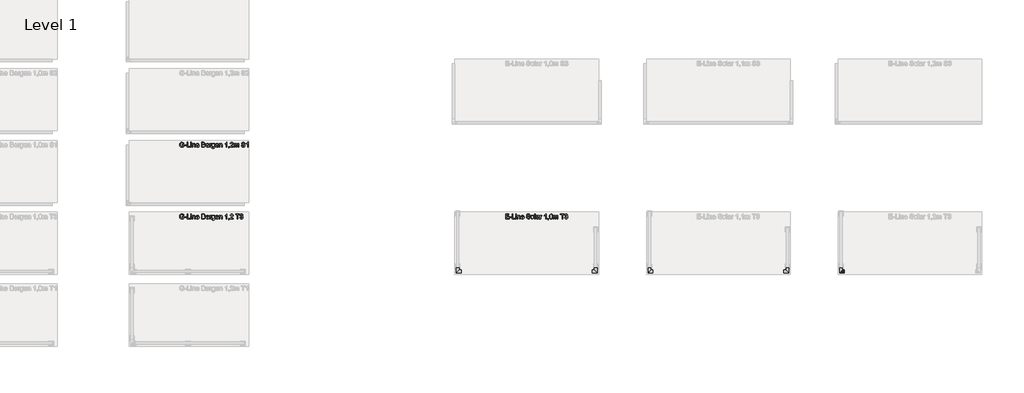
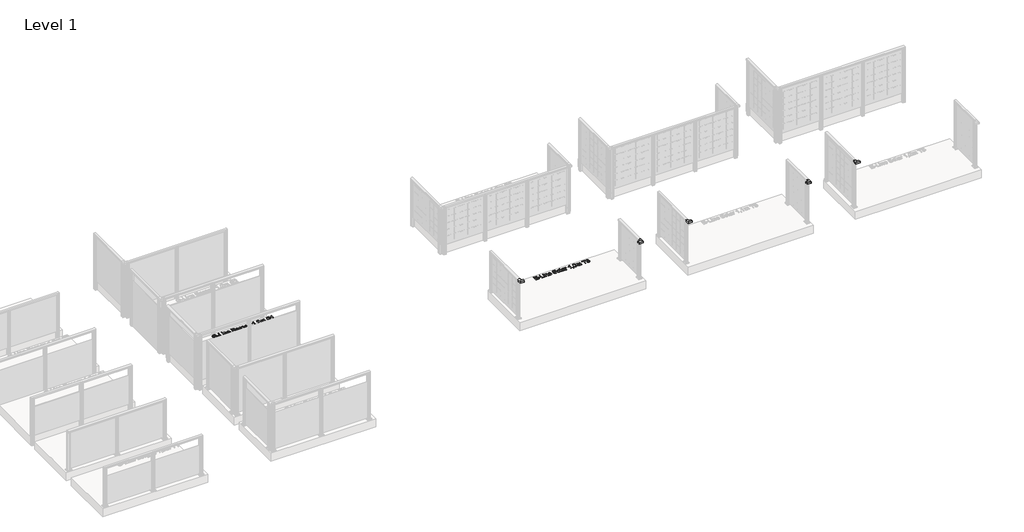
# One storey, part 54 of 66: 8 proxies.
"""IFC4 building model written with IfcOpenShell, lengths in millimetres."""

from ifc_helpers import new_model, si_unit, origin, origin_with_axes, place, context, project, spatial, polyline, outline, extrude, transform, mapped, element, save
from components import generic_models_029e0633, generic_models_b718ed85

model = new_model("IFC4")

# Units and contexts
model_context = context("Model", 3, world=origin())
ifc_project = project(units=[si_unit("LENGTHUNIT", "METRE", prefix="MILLI")], contexts=[model_context])

# Site, building, storey
site = spatial("IfcSite", under=ifc_project)
building = spatial("IfcBuilding", under=site)
storey = spatial("IfcBuildingStorey", under=building, Name="Level 1", Elevation=0.0)

# Proxies
placement = place(None, origin())
generic_models_shape = generic_models_029e0633(model_context)
element("IfcBuildingElementProxy", 1, Name="Innore top rail 51x43 corner element : Innore top rail 51x43 element", ObjectType="Innore top rail 51x43 corner element : Innore top rail 51x43 element", at=placement, inside=storey, context=model_context, shape_type="MappedRepresentation", body=[
    mapped(generic_models_shape, transform((15356.5263105, -2920.1018151, 1000.0), x_axis=(0.0, -1.0, 0.0), y_axis=(1.0, 0.0, 0.0), z_axis=(0.0, 0.0, 1.0))),
])
element("IfcBuildingElementProxy", 2, Name="Innore top rail 51x43 corner element : Innore top rail 51x43 element", ObjectType="Innore top rail 51x43 corner element : Innore top rail 51x43 element", at=placement, inside=storey, context=model_context, shape_type="MappedRepresentation", body=[
    mapped(generic_models_shape, transform((23356.5263105, -2920.1018151, 1200.0), x_axis=(0.0, -1.0, 0.0), y_axis=(1.0, 0.0, 0.0), z_axis=(0.0, 0.0, 1.0))),
])
element("IfcBuildingElementProxy", 3, Name="Innore top rail 51x43 corner element : Innore top rail 51x43 element", ObjectType="Innore top rail 51x43 corner element : Innore top rail 51x43 element", at=placement, inside=storey, context=model_context, shape_type="MappedRepresentation", body=[
    mapped(generic_models_shape, transform((19356.5263105, -2920.1018151, 1100.0), x_axis=(0.0, -1.0, 0.0), y_axis=(1.0, 0.0, 0.0), z_axis=(0.0, 0.0, 1.0))),
])
generic_models_2_shape = generic_models_b718ed85(model_context)
element("IfcBuildingElementProxy", 4, Name="Innore top rail 51x43 corner element : Innore top rail 51x43 element", ObjectType="Innore top rail 51x43 corner element : Innore top rail 51x43 element", at=placement, inside=storey, context=model_context, shape_type="MappedRepresentation", body=[
    mapped(generic_models_2_shape, transform((18236.5263105, -2920.1018151, 1000.0), x_axis=(0.0, -1.0, 0.0), y_axis=(1.0, 0.0, 0.0), z_axis=(0.0, 0.0, 1.0))),
])
element("IfcBuildingElementProxy", 5, Name="Innore top rail 51x43 corner element : Innore top rail 51x43 element", ObjectType="Innore top rail 51x43 corner element : Innore top rail 51x43 element", at=placement, inside=storey, context=model_context, shape_type="MappedRepresentation", body=[
    mapped(generic_models_2_shape, transform((22236.5263105, -2920.1018151, 1100.0), x_axis=(0.0, -1.0, 0.0), y_axis=(1.0, 0.0, 0.0), z_axis=(0.0, 0.0, 1.0))),
])
element("IfcBuildingElementProxy", 6, Name="100mm Arial", ObjectType="100mm Arial", at=placement, inside=storey, context=model_context, shape_type="SweptSolid", body=[
    extrude(outline(polyline([(9601.1253773, -1781.8776559), (9601.1253773, -1769.3206172), (9641.9357533, -1769.3206172), (9641.9357533, -1806.8691061), (9621.7880827, -1818.7149064), (9600.4877152, -1822.6880319), (9586.4009005, -1821.109205), (9573.6691178, -1816.3727243), (9563.0925104, -1808.6441368), (9555.4712217, -1798.0889892), (9550.8634997, -1785.4277172), (9549.3275924, -1771.3807563), (9550.8573684, -1757.2326279), (9555.4466963, -1744.0716496), (9562.9055037, -1733.032124), (9573.0437184, -1725.2483541), (9585.3922907, -1720.6314351), (9599.4821711, -1719.0924621), (9619.1270696, -1722.6609174), (9632.898119, -1732.5937313), (9640.4887508, -1749.2097348), (9628.9127307, -1752.4716218), (9623.1860343, -1740.8588135), (9613.4003732, -1734.1633612), (9599.2859674, -1731.6495009), (9583.2095242, -1734.3595649), (9572.2711662, -1741.4719501), (9565.8087058, -1751.1472466), (9561.8846312, -1770.8657215), (9566.6057835, -1792.7547003), (9580.3400446, -1805.8512993), (9599.4821711, -1810.1309932), (9616.6622603, -1806.9058943), (9629.3787146, -1800.026501), (9629.3787146, -1781.8776559), (9601.1253773, -1781.8776559)])), origin_with_axes(), (0.0, 0.0, 1.0), 10.0),
    extrude(outline(polyline([(9654.4927921, -1791.295435), (9654.4927921, -1778.7383962), (9693.7335383, -1778.7383962), (9693.7335383, -1791.295435), (9654.4927921, -1791.295435)])), origin_with_axes(), (0.0, 0.0, 1.0), 10.0),
    extrude(outline(polyline([(9709.4298367, -1821.1184021), (9709.4298367, -1720.6620919), (9721.9868755, -1720.6620919), (9721.9868755, -1808.5613633), (9772.2150306, -1808.5613633), (9772.2150306, -1821.1184021), (9709.4298367, -1821.1184021)])), origin_with_axes(), (0.0, 0.0, 1.0), 10.0),
    extrude(outline(polyline([(9784.7720693, -1733.2191307), (9784.7720693, -1720.6620919), (9797.3291081, -1720.6620919), (9797.3291081, -1733.2191307), (9784.7720693, -1733.2191307)])), origin_with_axes(), (0.0, 0.0, 1.0), 10.0),
    extrude(outline(polyline([(9784.7720693, -1821.1184021), (9784.7720693, -1747.3457993), (9797.3291081, -1747.3457993), (9797.3291081, -1821.1184021), (9784.7720693, -1821.1184021)])), origin_with_axes(), (0.0, 0.0, 1.0), 10.0),
    extrude(outline(polyline([(9816.1646663, -1821.1184021), (9816.1646663, -1747.3457993), (9828.721705, -1747.3457993), (9828.721705, -1757.6464952), (9838.3234251, -1748.7437509), (9851.4322869, -1745.7761695), (9863.2903498, -1748.1674024), (9871.3837537, -1754.4459218), (9875.1484128, -1763.6797599), (9875.8106004, -1775.8198657), (9875.8106004, -1821.1184021), (9863.2535616, -1821.1184021), (9863.2535616, -1777.5121229), (9861.8065591, -1766.4020867), (9856.6929994, -1760.5282375), (9848.072298, -1758.3332082), (9834.4484014, -1763.262827), (9830.1533791, -1770.405869), (9828.721705, -1781.9757578), (9828.721705, -1821.1184021), (9816.1646663, -1821.1184021)])), origin_with_axes(), (0.0, 0.0, 1.0), 10.0),
    extrude(outline(polyline([(9944.7271608, -1799.1435842), (9957.0389449, -1800.7132141), (9952.6029012, -1809.9899717), (9945.5242385, -1816.9245473), (9935.9623723, -1821.2471608), (9924.0767182, -1822.6880319), (9909.3430443, -1820.2017628), (9898.0061474, -1812.7429553), (9890.7772662, -1800.7959875), (9888.3676392, -1784.8452374), (9890.8017917, -1768.3579926), (9898.1042493, -1756.0278144), (9909.287862, -1748.3390807), (9923.3654796, -1745.7761695), (9937.0047046, -1748.3329493), (9947.9032087, -1756.0032889), (9955.0493165, -1768.3089417), (9957.4313524, -1784.771661), (9957.357776, -1788.1561753), (9900.9246779, -1788.1561753), (9903.0982474, -1797.5555603), (9908.1474278, -1804.4656104), (9915.434557, -1808.7146475), (9924.3219728, -1810.1309932), (9936.6337569, -1807.5067683), (9944.7271608, -1799.1435842)]), holes=[polyline([(9900.9246779, -1775.5991365), (9944.8743136, -1775.5991365), (9939.846593, -1764.2193202), (9932.5257413, -1759.8047362), (9923.3164287, -1758.3332082), (9907.8531222, -1763.029835), (9902.9878828, -1768.5204738), (9900.9246779, -1775.5991365)])]), origin_with_axes(), (0.0, 0.0, 1.0), 10.0),
    extrude(outline(polyline([(10010.7987672, -1821.1184021), (10010.7987672, -1720.6620919), (10049.1320711, -1720.6620919), (10067.9063156, -1723.6174106), (10078.9918263, -1732.7040959), (10083.0017401, -1745.5554403), (10079.6294885, -1757.2908759), (10069.4391572, -1766.1813575), (10081.812255, -1775.5500856), (10086.1409998, -1791.1728077), (10083.1856811, -1804.6740769), (10075.8648294, -1814.2880597), (10064.9387341, -1819.3893567), (10048.8377655, -1821.1184021), (10010.7987672, -1821.1184021)]), holes=[polyline([(10023.3558059, -1761.4724679), (10046.287117, -1761.4724679), (10059.6780216, -1760.3933474), (10067.7346373, -1755.7457715), (10070.4447013, -1747.5665285), (10067.9185783, -1739.3750228), (10060.6835657, -1734.5312431), (10044.5458089, -1733.2191307), (10023.3558059, -1733.2191307), (10023.3558059, -1761.4724679)]), polyline([(10023.3558059, -1808.5613633), (10049.1075456, -1808.5613633), (10058.4272228, -1808.070854), (10066.3121602, -1805.3362645), (10071.5360846, -1799.7567209), (10073.583961, -1791.295435), (10071.1804653, -1781.5342994), (10063.3936297, -1775.7095011), (10047.8812723, -1774.0295067), (10023.3558059, -1774.0295067), (10023.3558059, -1808.5613633)])]), origin_with_axes(), (0.0, 0.0, 1.0), 10.0),
    extrude(outline(polyline([(10153.4879304, -1799.1435842), (10165.7997145, -1800.7132141), (10161.3636707, -1809.9899717), (10154.285008, -1816.9245473), (10144.7231418, -1821.2471608), (10132.8374877, -1822.6880319), (10118.1038138, -1820.2017628), (10106.766917, -1812.7429553), (10099.5380358, -1800.7959875), (10097.1284087, -1784.8452374), (10099.5625612, -1768.3579926), (10106.8650188, -1756.0278144), (10118.0486315, -1748.3390807), (10132.1262492, -1745.7761695), (10145.7654741, -1748.3329493), (10156.6639783, -1756.0032889), (10163.810086, -1768.3089417), (10166.1921219, -1784.771661), (10166.1185455, -1788.1561753), (10109.6854475, -1788.1561753), (10111.8590169, -1797.5555603), (10116.9081973, -1804.4656104), (10124.1953265, -1808.7146475), (10133.0827424, -1810.1309932), (10145.3945265, -1807.5067683), (10153.4879304, -1799.1435842)]), holes=[polyline([(10109.6854475, -1775.5991365), (10153.6350832, -1775.5991365), (10148.6073626, -1764.2193202), (10141.2865109, -1759.8047362), (10132.0771982, -1758.3332082), (10116.6138917, -1763.029835), (10111.7486523, -1768.5204738), (10109.6854475, -1775.5991365)])]), origin_with_axes(), (0.0, 0.0, 1.0), 10.0),
    extrude(outline(polyline([(10178.7491607, -1821.1184021), (10178.7491607, -1747.3457993), (10189.7365696, -1747.3457993), (10189.7365696, -1758.2596318), (10197.5356679, -1748.2041906), (10205.3838171, -1745.7761695), (10217.9899068, -1749.6511932), (10213.7960521, -1760.9083822), (10204.9668842, -1758.3332082), (10197.8667617, -1760.8102803), (10193.3418132, -1767.6774109), (10191.3061995, -1782.3436398), (10191.3061995, -1821.1184021), (10178.7491607, -1821.1184021)])), origin_with_axes(), (0.0, 0.0, 1.0), 10.0),
    extrude(outline(polyline([(10222.6987964, -1827.3969215), (10235.2558352, -1828.9665513), (10239.3270626, -1835.5884272), (10251.5162193, -1838.3843304), (10264.3675637, -1835.2205452), (10270.4989303, -1826.3423264), (10271.3573216, -1811.700623), (10262.515891, -1818.7639573), (10251.7369485, -1821.1184021), (10238.790568, -1818.3776812), (10229.1367313, -1810.1555186), (10223.1310577, -1798.1012519), (10221.1291665, -1783.8642187), (10224.7221474, -1764.4032612), (10235.1209451, -1750.6322118), (10251.1238119, -1745.7761695), (10262.3258186, -1748.5230217), (10271.3573216, -1756.7635784), (10271.3573216, -1747.3457993), (10283.9143604, -1747.3457993), (10283.9143604, -1811.0384354), (10280.4807951, -1835.4290117), (10269.6037508, -1846.7720399), (10251.2709647, -1850.9413692), (10239.5876456, -1849.4729069), (10230.3875301, -1845.06752), (10224.4860897, -1837.7129457), (10222.6987964, -1827.3969215)]), holes=[polyline([(10233.6862053, -1783.0058274), (10235.0259089, -1794.5235995), (10239.0450197, -1802.4422595), (10245.0874815, -1807.0315873), (10252.497238, -1808.5613633), (10259.8518122, -1807.0407844), (10265.9249308, -1802.4790477), (10269.9992239, -1794.6615553), (10271.3573216, -1783.3737094), (10269.95937, -1772.487468), (10265.7655153, -1764.6485158), (10259.6034919, -1759.9120351), (10252.3010343, -1758.3332082), (10245.130401, -1759.8875097), (10239.1185961, -1764.550414), (10235.044303, -1772.2728702), (10233.6862053, -1783.0058274)])]), origin_with_axes(), (0.0, 0.0, 1.0), 10.0),
    extrude(outline(polyline([(10354.4005507, -1799.1435842), (10366.7123348, -1800.7132141), (10362.276291, -1809.9899717), (10355.1976283, -1816.9245473), (10345.6357621, -1821.2471608), (10333.750108, -1822.6880319), (10319.0164341, -1820.2017628), (10307.6795373, -1812.7429553), (10300.4506561, -1800.7959875), (10298.041029, -1784.8452374), (10300.4751815, -1768.3579926), (10307.7776391, -1756.0278144), (10318.9612518, -1748.3390807), (10333.0388695, -1745.7761695), (10346.6780944, -1748.3329493), (10357.5765986, -1756.0032889), (10364.7227063, -1768.3089417), (10367.1047422, -1784.771661), (10367.0311658, -1788.1561753), (10310.5980678, -1788.1561753), (10312.7716372, -1797.5555603), (10317.8208176, -1804.4656104), (10325.1079468, -1808.7146475), (10333.9953627, -1810.1309932), (10346.3071468, -1807.5067683), (10354.4005507, -1799.1435842)]), holes=[polyline([(10310.5980678, -1775.5991365), (10354.5477035, -1775.5991365), (10349.5199829, -1764.2193202), (10342.1991312, -1759.8047362), (10332.9898185, -1758.3332082), (10317.526512, -1763.029835), (10312.6612726, -1768.5204738), (10310.5980678, -1775.5991365)])]), origin_with_axes(), (0.0, 0.0, 1.0), 10.0),
    extrude(outline(polyline([(10379.661781, -1821.1184021), (10379.661781, -1747.3457993), (10392.2188198, -1747.3457993), (10392.2188198, -1757.6464952), (10401.8205398, -1748.7437509), (10414.9294016, -1745.7761695), (10426.7874646, -1748.1674024), (10434.8808685, -1754.4459218), (10438.6455276, -1763.6797599), (10439.3077151, -1775.8198657), (10439.3077151, -1821.1184021), (10426.7506764, -1821.1184021), (10426.7506764, -1777.5121229), (10425.3036739, -1766.4020867), (10420.1901141, -1760.5282375), (10411.5694127, -1758.3332082), (10397.9455162, -1763.262827), (10393.6504939, -1770.405869), (10392.2188198, -1781.9757578), (10392.2188198, -1821.1184021), (10379.661781, -1821.1184021)])), origin_with_axes(), (0.0, 0.0, 1.0), 10.0),
    extrude(outline(polyline([(10539.7640253, -1821.1184021), (10527.2069865, -1821.1184021), (10527.2069865, -1742.8331135), (10515.3121354, -1751.3066621), (10502.092909, -1757.6464952), (10502.092909, -1745.7761695), (10520.4992715, -1734.0284711), (10531.6706214, -1720.6620919), (10539.7640253, -1720.6620919), (10539.7640253, -1821.1184021)])), origin_with_axes(), (0.0, 0.0, 1.0), 10.0),
    extrude(outline(polyline([(10575.8655118, -1821.1184021), (10575.8655118, -1808.5613633), (10588.4225505, -1808.5613633), (10588.4225505, -1821.1184021), (10586.1662076, -1833.9574837), (10579.0047714, -1841.5235901), (10575.8655118, -1836.8147005), (10580.4762994, -1831.3945725), (10582.1195057, -1821.1184021), (10575.8655118, -1821.1184021)])), origin_with_axes(), (0.0, 0.0, 1.0), 10.0),
    extrude(outline(polyline([(10673.1825622, -1808.5613633), (10673.1825622, -1821.1184021), (10607.2581087, -1821.1184021), (10608.6070093, -1812.4609125), (10616.2344294, -1799.1313215), (10631.9552533, -1784.5754572), (10653.6357655, -1763.6552344), (10659.0558936, -1749.430464), (10653.9423339, -1737.9157575), (10640.5882174, -1733.2191307), (10626.6700153, -1737.8053929), (10621.3847773, -1750.485059), (10608.8277385, -1748.9154292), (10611.871962, -1736.769192), (10618.4539841, -1727.8971045), (10628.2304481, -1722.4708451), (10640.8579976, -1720.6620919), (10653.5775176, -1722.6731802), (10663.3355875, -1728.7064449), (10669.5435961, -1737.7195538), (10671.6129324, -1748.6701745), (10669.3811149, -1760.5772884), (10661.9621614, -1772.8890725), (10643.9727318, -1790.0936872), (10629.5272321, -1802.1724793), (10623.8618494, -1808.5613633), (10673.1825622, -1808.5613633)])), origin_with_axes(), (0.0, 0.0, 1.0), 10.0),
    extrude(outline(polyline([(10754.8033142, -1821.1184021), (10754.8033142, -1733.2191307), (10721.8410874, -1733.2191307), (10721.8410874, -1720.6620919), (10800.3225797, -1720.6620919), (10800.3225797, -1733.2191307), (10767.360353, -1733.2191307), (10767.360353, -1821.1184021), (10754.8033142, -1821.1184021)])), origin_with_axes(), (0.0, 0.0, 1.0), 10.0),
    extrude(outline(polyline([(10809.7403588, -1794.4346947), (10822.2973976, -1792.8650649), (10829.2258418, -1806.0842912), (10842.1875508, -1810.1309932), (10850.7959895, -1808.7391729), (10857.4423909, -1804.5637123), (10863.1077736, -1790.7804002), (10857.4914418, -1777.7941658), (10843.2176204, -1772.6560806), (10834.412978, -1774.0295067), (10835.8109295, -1761.4724679), (10837.8220178, -1761.6196207), (10852.0713137, -1758.0143772), (10856.8169915, -1753.4403777), (10858.3988841, -1746.9288664), (10853.8126218, -1737.1064171), (10841.9913471, -1733.2191307), (10830.0229195, -1737.1432053), (10823.8670274, -1748.9154292), (10811.3099887, -1747.3457993), (10815.0072027, -1736.0702162), (10821.5861591, -1727.6518498), (10830.5870052, -1722.4095314), (10841.5498887, -1720.6620919), (10856.6943641, -1724.10792), (10867.2893656, -1733.525699), (10870.9559228, -1746.1931024), (10867.4733066, -1757.7691225), (10857.1726107, -1766.0832556), (10870.857821, -1774.6671688), (10875.6648124, -1791.0011294), (10873.2613167, -1803.2393371), (10866.0508296, -1813.4664566), (10855.1676539, -1820.3826381), (10841.7460924, -1822.6880319), (10829.6059866, -1820.7198633), (10819.7222236, -1814.8153572), (10812.8489617, -1805.7838542), (10809.7403588, -1794.4346947)])), origin_with_axes(), (0.0, 0.0, 1.0), 10.0),
])
element("IfcBuildingElementProxy", 7, Name="100mm Arial", ObjectType="100mm Arial", at=placement, inside=storey, context=model_context, shape_type="SweptSolid", body=[
    extrude(outline(polyline([(9601.1253773, -281.8776559), (9601.1253773, -269.3206172), (9641.9357533, -269.3206172), (9641.9357533, -306.8691061), (9621.7880827, -318.7149064), (9600.4877152, -322.6880319), (9586.4009005, -321.109205), (9573.6691178, -316.3727243), (9563.0925104, -308.6441368), (9555.4712217, -298.0889892), (9550.8634997, -285.4277172), (9549.3275924, -271.3807563), (9550.8573684, -257.2326279), (9555.4466963, -244.0716496), (9562.9055037, -233.032124), (9573.0437184, -225.2483541), (9585.3922907, -220.6314351), (9599.4821711, -219.0924621), (9619.1270696, -222.6609174), (9632.898119, -232.5937313), (9640.4887508, -249.2097348), (9628.9127307, -252.4716218), (9623.1860343, -240.8588135), (9613.4003732, -234.1633612), (9599.2859674, -231.6495009), (9583.2095242, -234.3595649), (9572.2711662, -241.4719501), (9565.8087058, -251.1472466), (9561.8846312, -270.8657215), (9566.6057835, -292.7547003), (9580.3400446, -305.8512993), (9599.4821711, -310.1309932), (9616.6622603, -306.9058943), (9629.3787146, -300.026501), (9629.3787146, -281.8776559), (9601.1253773, -281.8776559)])), origin_with_axes(), (0.0, 0.0, 1.0), 10.0),
    extrude(outline(polyline([(9654.4927921, -291.295435), (9654.4927921, -278.7383962), (9693.7335383, -278.7383962), (9693.7335383, -291.295435), (9654.4927921, -291.295435)])), origin_with_axes(), (0.0, 0.0, 1.0), 10.0),
    extrude(outline(polyline([(9709.4298367, -321.1184021), (9709.4298367, -220.6620919), (9721.9868755, -220.6620919), (9721.9868755, -308.5613633), (9772.2150306, -308.5613633), (9772.2150306, -321.1184021), (9709.4298367, -321.1184021)])), origin_with_axes(), (0.0, 0.0, 1.0), 10.0),
    extrude(outline(polyline([(9784.7720693, -233.2191307), (9784.7720693, -220.6620919), (9797.3291081, -220.6620919), (9797.3291081, -233.2191307), (9784.7720693, -233.2191307)])), origin_with_axes(), (0.0, 0.0, 1.0), 10.0),
    extrude(outline(polyline([(9784.7720693, -321.1184021), (9784.7720693, -247.3457993), (9797.3291081, -247.3457993), (9797.3291081, -321.1184021), (9784.7720693, -321.1184021)])), origin_with_axes(), (0.0, 0.0, 1.0), 10.0),
    extrude(outline(polyline([(9816.1646663, -321.1184021), (9816.1646663, -247.3457993), (9828.721705, -247.3457993), (9828.721705, -257.6464952), (9838.3234251, -248.7437509), (9851.4322869, -245.7761695), (9863.2903498, -248.1674024), (9871.3837537, -254.4459218), (9875.1484128, -263.6797599), (9875.8106004, -275.8198657), (9875.8106004, -321.1184021), (9863.2535616, -321.1184021), (9863.2535616, -277.5121229), (9861.8065591, -266.4020867), (9856.6929994, -260.5282375), (9848.072298, -258.3332082), (9834.4484014, -263.262827), (9830.1533791, -270.405869), (9828.721705, -281.9757578), (9828.721705, -321.1184021), (9816.1646663, -321.1184021)])), origin_with_axes(), (0.0, 0.0, 1.0), 10.0),
    extrude(outline(polyline([(9944.7271608, -299.1435842), (9957.0389449, -300.7132141), (9952.6029012, -309.9899717), (9945.5242385, -316.9245473), (9935.9623723, -321.2471608), (9924.0767182, -322.6880319), (9909.3430443, -320.2017628), (9898.0061474, -312.7429553), (9890.7772662, -300.7959875), (9888.3676392, -284.8452374), (9890.8017917, -268.3579926), (9898.1042493, -256.0278144), (9909.287862, -248.3390807), (9923.3654796, -245.7761695), (9937.0047046, -248.3329493), (9947.9032087, -256.0032889), (9955.0493165, -268.3089417), (9957.4313524, -284.771661), (9957.357776, -288.1561753), (9900.9246779, -288.1561753), (9903.0982474, -297.5555603), (9908.1474278, -304.4656104), (9915.434557, -308.7146475), (9924.3219728, -310.1309932), (9936.6337569, -307.5067683), (9944.7271608, -299.1435842)]), holes=[polyline([(9900.9246779, -275.5991365), (9944.8743136, -275.5991365), (9939.846593, -264.2193202), (9932.5257413, -259.8047362), (9923.3164287, -258.3332082), (9907.8531222, -263.029835), (9902.9878828, -268.5204738), (9900.9246779, -275.5991365)])]), origin_with_axes(), (0.0, 0.0, 1.0), 10.0),
    extrude(outline(polyline([(10010.7987672, -321.1184021), (10010.7987672, -220.6620919), (10049.1320711, -220.6620919), (10067.9063156, -223.6174106), (10078.9918263, -232.7040959), (10083.0017401, -245.5554403), (10079.6294885, -257.2908759), (10069.4391572, -266.1813575), (10081.812255, -275.5500856), (10086.1409998, -291.1728077), (10083.1856811, -304.6740769), (10075.8648294, -314.2880597), (10064.9387341, -319.3893567), (10048.8377655, -321.1184021), (10010.7987672, -321.1184021)]), holes=[polyline([(10023.3558059, -261.4724679), (10046.287117, -261.4724679), (10059.6780216, -260.3933474), (10067.7346373, -255.7457715), (10070.4447013, -247.5665285), (10067.9185783, -239.3750228), (10060.6835657, -234.5312431), (10044.5458089, -233.2191307), (10023.3558059, -233.2191307), (10023.3558059, -261.4724679)]), polyline([(10023.3558059, -308.5613633), (10049.1075456, -308.5613633), (10058.4272228, -308.070854), (10066.3121602, -305.3362645), (10071.5360846, -299.7567209), (10073.583961, -291.295435), (10071.1804653, -281.5342994), (10063.3936297, -275.7095011), (10047.8812723, -274.0295067), (10023.3558059, -274.0295067), (10023.3558059, -308.5613633)])]), origin_with_axes(), (0.0, 0.0, 1.0), 10.0),
    extrude(outline(polyline([(10153.4879304, -299.1435842), (10165.7997145, -300.7132141), (10161.3636707, -309.9899717), (10154.285008, -316.9245473), (10144.7231418, -321.2471608), (10132.8374877, -322.6880319), (10118.1038138, -320.2017628), (10106.766917, -312.7429553), (10099.5380358, -300.7959875), (10097.1284087, -284.8452374), (10099.5625612, -268.3579926), (10106.8650188, -256.0278144), (10118.0486315, -248.3390807), (10132.1262492, -245.7761695), (10145.7654741, -248.3329493), (10156.6639783, -256.0032889), (10163.810086, -268.3089417), (10166.1921219, -284.771661), (10166.1185455, -288.1561753), (10109.6854475, -288.1561753), (10111.8590169, -297.5555603), (10116.9081973, -304.4656104), (10124.1953265, -308.7146475), (10133.0827424, -310.1309932), (10145.3945265, -307.5067683), (10153.4879304, -299.1435842)]), holes=[polyline([(10109.6854475, -275.5991365), (10153.6350832, -275.5991365), (10148.6073626, -264.2193202), (10141.2865109, -259.8047362), (10132.0771982, -258.3332082), (10116.6138917, -263.029835), (10111.7486523, -268.5204738), (10109.6854475, -275.5991365)])]), origin_with_axes(), (0.0, 0.0, 1.0), 10.0),
    extrude(outline(polyline([(10178.7491607, -321.1184021), (10178.7491607, -247.3457993), (10189.7365696, -247.3457993), (10189.7365696, -258.2596318), (10197.5356679, -248.2041906), (10205.3838171, -245.7761695), (10217.9899068, -249.6511932), (10213.7960521, -260.9083822), (10204.9668842, -258.3332082), (10197.8667617, -260.8102803), (10193.3418132, -267.6774109), (10191.3061995, -282.3436398), (10191.3061995, -321.1184021), (10178.7491607, -321.1184021)])), origin_with_axes(), (0.0, 0.0, 1.0), 10.0),
    extrude(outline(polyline([(10222.6987964, -327.3969215), (10235.2558352, -328.9665513), (10239.3270626, -335.5884272), (10251.5162193, -338.3843304), (10264.3675637, -335.2205452), (10270.4989303, -326.3423264), (10271.3573216, -311.700623), (10262.515891, -318.7639573), (10251.7369485, -321.1184021), (10238.790568, -318.3776812), (10229.1367313, -310.1555186), (10223.1310577, -298.1012519), (10221.1291665, -283.8642187), (10224.7221474, -264.4032612), (10235.1209451, -250.6322118), (10251.1238119, -245.7761695), (10262.3258186, -248.5230217), (10271.3573216, -256.7635784), (10271.3573216, -247.3457993), (10283.9143604, -247.3457993), (10283.9143604, -311.0384354), (10280.4807951, -335.4290117), (10269.6037508, -346.7720399), (10251.2709647, -350.9413692), (10239.5876456, -349.4729069), (10230.3875301, -345.06752), (10224.4860897, -337.7129457), (10222.6987964, -327.3969215)]), holes=[polyline([(10233.6862053, -283.0058274), (10235.0259089, -294.5235995), (10239.0450197, -302.4422595), (10245.0874815, -307.0315873), (10252.497238, -308.5613633), (10259.8518122, -307.0407844), (10265.9249308, -302.4790477), (10269.9992239, -294.6615553), (10271.3573216, -283.3737094), (10269.95937, -272.487468), (10265.7655153, -264.6485158), (10259.6034919, -259.9120351), (10252.3010343, -258.3332082), (10245.130401, -259.8875097), (10239.1185961, -264.550414), (10235.044303, -272.2728702), (10233.6862053, -283.0058274)])]), origin_with_axes(), (0.0, 0.0, 1.0), 10.0),
    extrude(outline(polyline([(10354.4005507, -299.1435842), (10366.7123348, -300.7132141), (10362.276291, -309.9899717), (10355.1976283, -316.9245473), (10345.6357621, -321.2471608), (10333.750108, -322.6880319), (10319.0164341, -320.2017628), (10307.6795373, -312.7429553), (10300.4506561, -300.7959875), (10298.041029, -284.8452374), (10300.4751815, -268.3579926), (10307.7776391, -256.0278144), (10318.9612518, -248.3390807), (10333.0388695, -245.7761695), (10346.6780944, -248.3329493), (10357.5765986, -256.0032889), (10364.7227063, -268.3089417), (10367.1047422, -284.771661), (10367.0311658, -288.1561753), (10310.5980678, -288.1561753), (10312.7716372, -297.5555603), (10317.8208176, -304.4656104), (10325.1079468, -308.7146475), (10333.9953627, -310.1309932), (10346.3071468, -307.5067683), (10354.4005507, -299.1435842)]), holes=[polyline([(10310.5980678, -275.5991365), (10354.5477035, -275.5991365), (10349.5199829, -264.2193202), (10342.1991312, -259.8047362), (10332.9898185, -258.3332082), (10317.526512, -263.029835), (10312.6612726, -268.5204738), (10310.5980678, -275.5991365)])]), origin_with_axes(), (0.0, 0.0, 1.0), 10.0),
    extrude(outline(polyline([(10379.661781, -321.1184021), (10379.661781, -247.3457993), (10392.2188198, -247.3457993), (10392.2188198, -257.6464952), (10401.8205398, -248.7437509), (10414.9294016, -245.7761695), (10426.7874646, -248.1674024), (10434.8808685, -254.4459218), (10438.6455276, -263.6797599), (10439.3077151, -275.8198657), (10439.3077151, -321.1184021), (10426.7506764, -321.1184021), (10426.7506764, -277.5121229), (10425.3036739, -266.4020867), (10420.1901141, -260.5282375), (10411.5694127, -258.3332082), (10397.9455162, -263.262827), (10393.6504939, -270.405869), (10392.2188198, -281.9757578), (10392.2188198, -321.1184021), (10379.661781, -321.1184021)])), origin_with_axes(), (0.0, 0.0, 1.0), 10.0),
    extrude(outline(polyline([(10539.7640253, -321.1184021), (10527.2069865, -321.1184021), (10527.2069865, -242.8331135), (10515.3121354, -251.3066621), (10502.092909, -257.6464952), (10502.092909, -245.7761695), (10520.4992715, -234.0284711), (10531.6706214, -220.6620919), (10539.7640253, -220.6620919), (10539.7640253, -321.1184021)])), origin_with_axes(), (0.0, 0.0, 1.0), 10.0),
    extrude(outline(polyline([(10575.8655118, -321.1184021), (10575.8655118, -308.5613633), (10588.4225505, -308.5613633), (10588.4225505, -321.1184021), (10586.1662076, -333.9574837), (10579.0047714, -341.5235901), (10575.8655118, -336.8147005), (10580.4762994, -331.3945725), (10582.1195057, -321.1184021), (10575.8655118, -321.1184021)])), origin_with_axes(), (0.0, 0.0, 1.0), 10.0),
    extrude(outline(polyline([(10673.1825622, -308.5613633), (10673.1825622, -321.1184021), (10607.2581087, -321.1184021), (10608.6070093, -312.4609125), (10616.2344294, -299.1313215), (10631.9552533, -284.5754572), (10653.6357655, -263.6552344), (10659.0558936, -249.430464), (10653.9423339, -237.9157575), (10640.5882174, -233.2191307), (10626.6700153, -237.8053929), (10621.3847773, -250.485059), (10608.8277385, -248.9154292), (10611.871962, -236.769192), (10618.4539841, -227.8971045), (10628.2304481, -222.4708451), (10640.8579976, -220.6620919), (10653.5775176, -222.6731802), (10663.3355875, -228.7064449), (10669.5435961, -237.7195538), (10671.6129324, -248.6701745), (10669.3811149, -260.5772884), (10661.9621614, -272.8890725), (10643.9727318, -290.0936872), (10629.5272321, -302.1724793), (10623.8618494, -308.5613633), (10673.1825622, -308.5613633)])), origin_with_axes(), (0.0, 0.0, 1.0), 10.0),
    extrude(outline(polyline([(10688.8788607, -321.1184021), (10688.8788607, -247.3457993), (10701.4358994, -247.3457993), (10701.4358994, -259.4859052), (10710.0688636, -249.5408286), (10722.3561222, -245.7761695), (10734.9376865, -249.614405), (10741.853868, -260.3688219), (10751.6517918, -249.4243326), (10764.0248896, -245.7761695), (10773.4641284, -247.2936827), (10780.4446893, -251.8462224), (10784.7581057, -259.5564159), (10786.1959111, -270.5468905), (10786.1959111, -321.1184021), (10773.6388724, -321.1184021), (10773.6388724, -275.9424931), (10772.4739127, -265.4578562), (10768.2555325, -260.2952455), (10761.0818336, -258.3332082), (10748.7332613, -263.3609288), (10745.0452443, -269.903097), (10743.8159053, -279.4741602), (10743.8159053, -321.1184021), (10731.2588665, -321.1184021), (10731.2588665, -274.5445415), (10728.3525988, -262.3799102), (10718.8244551, -258.3332082), (10709.5293033, -261.0310095), (10703.3488858, -268.9282097), (10701.4358994, -283.9132696), (10701.4358994, -321.1184021), (10688.8788607, -321.1184021)])), origin_with_axes(), (0.0, 0.0, 1.0), 10.0),
    extrude(outline(polyline([(10841.1329557, -286.5865455), (10853.6899945, -286.5865455), (10857.7366965, -299.155847), (10867.6204594, -307.1020981), (10882.6790957, -310.1309932), (10895.8002202, -307.8378621), (10904.2737689, -301.5348172), (10907.0574093, -293.1103195), (10904.9727446, -285.274433), (10896.4378824, -279.5722621), (10878.1541472, -274.7775334), (10858.4724605, -268.5848532), (10847.7916199, -259.2406505), (10844.2722154, -246.7571881), (10848.6254857, -232.5446804), (10861.34194, -222.5137646), (10879.956769, -219.0924621), (10899.8223967, -222.6731802), (10913.0661485, -233.1946052), (10918.0448182, -248.9154292), (10905.4877794, -248.9154292), (10903.1823856, -241.4228992), (10898.3753942, -236.0150339), (10880.4472783, -231.6495009), (10862.4701115, -235.9659829), (10856.8292542, -246.3893061), (10860.8269052, -255.0958467), (10881.3301951, -262.1101301), (10903.5502676, -268.4131749), (10915.7026362, -278.5912434), (10919.6144481, -292.7914885), (10915.114025, -307.8133366), (10902.1645787, -318.77622), (10883.1696051, -322.6880319), (10860.7410661, -318.4696517), (10846.5530838, -305.7654601), (10841.1329557, -286.5865455)])), origin_with_axes(), (0.0, 0.0, 1.0), 10.0),
    extrude(outline(polyline([(10980.830012, -321.1184021), (10968.2729733, -321.1184021), (10968.2729733, -242.8331135), (10956.3781221, -251.3066621), (10943.1588957, -257.6464952), (10943.1588957, -245.7761695), (10961.5652582, -234.0284711), (10972.7366082, -220.6620919), (10980.830012, -220.6620919), (10980.830012, -321.1184021)])), origin_with_axes(), (0.0, 0.0, 1.0), 10.0),
])
element("IfcBuildingElementProxy", 8, Name="100mm Arial", ObjectType="100mm Arial", at=placement, inside=storey, context=model_context, shape_type="SweptSolid", body=[
    extrude(outline(polyline([(16354.036482, -1821.1184021), (16354.036482, -1720.6620919), (16426.2394549, -1720.6620919), (16426.2394549, -1733.2191307), (16366.5935207, -1733.2191307), (16366.5935207, -1763.0420978), (16423.1001952, -1763.0420978), (16423.1001952, -1775.5991365), (16366.5935207, -1775.5991365), (16366.5935207, -1808.5613633), (16427.8090847, -1808.5613633), (16427.8090847, -1821.1184021), (16354.036482, -1821.1184021)])), origin_with_axes(), (0.0, 0.0, 1.0), 10.0),
    extrude(outline(polyline([(16438.7964936, -1791.295435), (16438.7964936, -1778.7383962), (16478.0372398, -1778.7383962), (16478.0372398, -1791.295435), (16438.7964936, -1791.295435)])), origin_with_axes(), (0.0, 0.0, 1.0), 10.0),
    extrude(outline(polyline([(16493.7335383, -1821.1184021), (16493.7335383, -1720.6620919), (16506.290577, -1720.6620919), (16506.290577, -1808.5613633), (16556.5187321, -1808.5613633), (16556.5187321, -1821.1184021), (16493.7335383, -1821.1184021)])), origin_with_axes(), (0.0, 0.0, 1.0), 10.0),
    extrude(outline(polyline([(16569.0757709, -1733.2191307), (16569.0757709, -1720.6620919), (16581.6328096, -1720.6620919), (16581.6328096, -1733.2191307), (16569.0757709, -1733.2191307)])), origin_with_axes(), (0.0, 0.0, 1.0), 10.0),
    extrude(outline(polyline([(16569.0757709, -1821.1184021), (16569.0757709, -1747.3457993), (16581.6328096, -1747.3457993), (16581.6328096, -1821.1184021), (16569.0757709, -1821.1184021)])), origin_with_axes(), (0.0, 0.0, 1.0), 10.0),
    extrude(outline(polyline([(16600.4683678, -1821.1184021), (16600.4683678, -1747.3457993), (16613.0254066, -1747.3457993), (16613.0254066, -1757.6464952), (16622.6271266, -1748.7437509), (16635.7359884, -1745.7761695), (16647.5940514, -1748.1674024), (16655.6874553, -1754.4459218), (16659.4521144, -1763.6797599), (16660.1143019, -1775.8198657), (16660.1143019, -1821.1184021), (16647.5572632, -1821.1184021), (16647.5572632, -1777.5121229), (16646.1102607, -1766.4020867), (16640.9967009, -1760.5282375), (16632.3759995, -1758.3332082), (16618.752103, -1763.262827), (16614.4570807, -1770.405869), (16613.0254066, -1781.9757578), (16613.0254066, -1821.1184021), (16600.4683678, -1821.1184021)])), origin_with_axes(), (0.0, 0.0, 1.0), 10.0),
    extrude(outline(polyline([(16729.0308624, -1799.1435842), (16741.3426465, -1800.7132141), (16736.9066028, -1809.9899717), (16729.82794, -1816.9245473), (16720.2660738, -1821.2471608), (16708.3804197, -1822.6880319), (16693.6467458, -1820.2017628), (16682.309849, -1812.7429553), (16675.0809678, -1800.7959875), (16672.6713407, -1784.8452374), (16675.1054932, -1768.3579926), (16682.4079508, -1756.0278144), (16693.5915635, -1748.3390807), (16707.6691812, -1745.7761695), (16721.3084062, -1748.3329493), (16732.2069103, -1756.0032889), (16739.353018, -1768.3089417), (16741.7350539, -1784.771661), (16741.6614775, -1788.1561753), (16685.2283795, -1788.1561753), (16687.4019489, -1797.5555603), (16692.4511293, -1804.4656104), (16699.7382585, -1808.7146475), (16708.6256744, -1810.1309932), (16720.9374585, -1807.5067683), (16729.0308624, -1799.1435842)]), holes=[polyline([(16685.2283795, -1775.5991365), (16729.1780152, -1775.5991365), (16724.1502946, -1764.2193202), (16716.8294429, -1759.8047362), (16707.6201303, -1758.3332082), (16692.1568237, -1763.029835), (16687.2915843, -1768.5204738), (16685.2283795, -1775.5991365)])]), origin_with_axes(), (0.0, 0.0, 1.0), 10.0),
    extrude(outline(polyline([(16790.3935792, -1786.5865455), (16802.9506179, -1786.5865455), (16806.9973199, -1799.155847), (16816.8810828, -1807.1020981), (16831.9397192, -1810.1309932), (16845.0608437, -1807.8378621), (16853.5343923, -1801.5348172), (16856.3180327, -1793.1103195), (16854.2333681, -1785.274433), (16845.6985058, -1779.5722621), (16827.4147706, -1774.7775334), (16807.7330839, -1768.5848532), (16797.0522433, -1759.2406505), (16793.5328389, -1746.7571881), (16797.8861091, -1732.5446804), (16810.6025634, -1722.5137646), (16829.2173924, -1719.0924621), (16849.0830201, -1722.6731802), (16862.326772, -1733.1946052), (16867.3054416, -1748.9154292), (16854.7484029, -1748.9154292), (16852.443009, -1741.4228992), (16847.6360176, -1736.0150339), (16829.7079017, -1731.6495009), (16811.7307349, -1735.9659829), (16806.0898776, -1746.3893061), (16810.0875286, -1755.0958467), (16830.5908185, -1762.1101301), (16852.810891, -1768.4131749), (16864.9632596, -1778.5912434), (16868.8750715, -1792.7914885), (16864.3746484, -1807.8133366), (16851.4252022, -1818.77622), (16832.4302285, -1822.6880319), (16810.0016895, -1818.4696517), (16795.8137072, -1805.7654601), (16790.3935792, -1786.5865455)])), origin_with_axes(), (0.0, 0.0, 1.0), 10.0),
    extrude(outline(polyline([(16883.0017401, -1784.2321007), (16885.7179355, -1766.4450062), (16893.8665217, -1753.9431498), (16903.9342256, -1747.8179145), (16915.9884923, -1745.7761695), (16929.1801275, -1748.2624386), (16939.716881, -1755.7212461), (16946.6238655, -1767.5639806), (16948.9261936, -1783.2020311), (16944.8549662, -1805.544731), (16932.9969032, -1818.1876089), (16915.9884923, -1822.6880319), (16902.6374416, -1820.2109598), (16892.1129508, -1812.7797435), (16885.2795428, -1800.6886886), (16883.0017401, -1784.2321007)]), holes=[polyline([(16895.5587789, -1784.2075752), (16897.0119127, -1795.5720632), (16901.3713144, -1803.6685328), (16907.9318766, -1808.5153781), (16915.9884923, -1810.1309932), (16924.0083198, -1808.506181), (16930.5566193, -1803.6317446), (16934.916021, -1795.4279761), (16936.3691549, -1783.8151678), (16934.9068239, -1772.7817736), (16930.5198311, -1764.7956686), (16923.9623346, -1759.9488233), (16915.9884923, -1758.3332082), (16907.9318766, -1759.942692), (16901.3713144, -1764.7711432), (16897.0119127, -1772.8492186), (16895.5587789, -1784.2075752)])]), origin_with_axes(), (0.0, 0.0, 1.0), 10.0),
    extrude(outline(polyline([(16963.0528622, -1821.1184021), (16963.0528622, -1720.6620919), (16975.609901, -1720.6620919), (16975.609901, -1821.1184021), (16963.0528622, -1821.1184021)])), origin_with_axes(), (0.0, 0.0, 1.0), 10.0),
    extrude(outline(polyline([(17041.5343545, -1811.700623), (17029.3574605, -1820.2109598), (17015.9052422, -1822.6880319), (17005.4114083, -1821.1981098), (16997.670558, -1816.7283436), (16992.8972891, -1809.9409208), (16991.3061995, -1801.498029), (16993.7096952, -1791.5652151), (17000.0250028, -1784.354728), (17008.8173824, -1780.2344497), (17019.682164, -1778.3459888), (17041.4607781, -1774.0295067), (17041.5343545, -1771.2336035), (17038.0762638, -1761.9629773), (17024.1948498, -1758.3332082), (17011.4906583, -1760.7489667), (17005.4328681, -1769.3206172), (16992.8758293, -1767.7509873), (16998.3082201, -1755.4882541), (17009.2465781, -1748.3022925), (17025.8135306, -1745.7761695), (17041.0315825, -1748.0079869), (17049.6277584, -1753.612056), (17053.4782567, -1762.1346555), (17054.0913933, -1773.1220644), (17054.0913933, -1788.7447865), (17054.7290554, -1810.5601888), (17057.230653, -1821.1184021), (17044.6736142, -1821.1184021), (17041.5343545, -1811.700623)]), holes=[polyline([(17041.5343545, -1786.5865455), (17021.2763193, -1790.4370437), (17010.4728514, -1792.4726574), (17005.5800209, -1795.7835953), (17003.8632382, -1800.6151122), (17007.6033719, -1807.4086664), (17018.578518, -1810.1309932), (17031.2827096, -1807.1266235), (17039.4742154, -1799.8548228), (17041.4607781, -1790.1427381), (17041.5343545, -1786.5865455)])]), origin_with_axes(), (0.0, 0.0, 1.0), 10.0),
    extrude(outline(polyline([(17071.3573216, -1821.1184021), (17071.3573216, -1747.3457993), (17082.3447305, -1747.3457993), (17082.3447305, -1758.2596318), (17090.1438288, -1748.2041906), (17097.9919781, -1745.7761695), (17110.5980678, -1749.6511932), (17106.404213, -1760.9083822), (17097.5750451, -1758.3332082), (17090.4749226, -1760.8102803), (17085.9499741, -1767.6774109), (17083.9143604, -1782.3436398), (17083.9143604, -1821.1184021), (17071.3573216, -1821.1184021)])), origin_with_axes(), (0.0, 0.0, 1.0), 10.0),
    extrude(outline(polyline([(17201.6365988, -1821.1184021), (17189.0795601, -1821.1184021), (17189.0795601, -1742.8331135), (17177.1847089, -1751.3066621), (17163.9654825, -1757.6464952), (17163.9654825, -1745.7761695), (17182.371845, -1734.0284711), (17193.5431949, -1720.6620919), (17201.6365988, -1720.6620919), (17201.6365988, -1821.1184021)])), origin_with_axes(), (0.0, 0.0, 1.0), 10.0),
    extrude(outline(polyline([(17237.7380853, -1821.1184021), (17237.7380853, -1808.5613633), (17250.2951241, -1808.5613633), (17250.2951241, -1821.1184021), (17248.0387812, -1833.9574837), (17240.877345, -1841.5235901), (17237.7380853, -1836.8147005), (17242.348873, -1831.3945725), (17243.9920792, -1821.1184021), (17237.7380853, -1821.1184021)])), origin_with_axes(), (0.0, 0.0, 1.0), 10.0),
    extrude(outline(polyline([(17270.7003121, -1771.6995874), (17274.3913948, -1742.7963253), (17285.3542782, -1726.1312709), (17303.6625388, -1720.6620919), (17318.3287677, -1723.8994535), (17328.4577853, -1733.2313934), (17334.3438972, -1748.093826), (17336.6247656, -1771.6995874), (17332.9704711, -1800.4802222), (17322.0443759, -1817.1820647), (17313.8130162, -1821.3115401), (17303.6625388, -1822.6880319), (17290.6149907, -1820.296799), (17280.7067023, -1813.1231001), (17273.2019096, -1796.1330832), (17270.7003121, -1771.6995874)]), holes=[polyline([(17283.2573508, -1771.6750619), (17284.7288788, -1791.4272594), (17289.1434628, -1802.8591924), (17295.7162877, -1808.313043), (17303.6625388, -1810.1309932), (17311.6087899, -1808.3069116), (17318.1816149, -1802.8346669), (17322.5961989, -1791.3966026), (17324.0677268, -1771.6750619), (17322.6452498, -1752.3673885), (17318.3778186, -1740.8465507), (17311.8172564, -1735.1259857), (17303.515386, -1733.2191307), (17295.6549741, -1734.8991251), (17289.3396665, -1739.9391085), (17284.7779298, -1752.1773162), (17283.2573508, -1771.6750619)])]), origin_with_axes(), (0.0, 0.0, 1.0), 10.0),
    extrude(outline(polyline([(17350.7514342, -1821.1184021), (17350.7514342, -1747.3457993), (17363.308473, -1747.3457993), (17363.308473, -1759.4859052), (17371.9414371, -1749.5408286), (17384.2286958, -1745.7761695), (17396.81026, -1749.614405), (17403.7264415, -1760.3688219), (17413.5243653, -1749.4243326), (17425.8974631, -1745.7761695), (17435.336702, -1747.2936827), (17442.3172628, -1751.8462224), (17446.6306792, -1759.5564159), (17448.0684847, -1770.5468905), (17448.0684847, -1821.1184021), (17435.5114459, -1821.1184021), (17435.5114459, -1775.9424931), (17434.3464863, -1765.4578562), (17430.128106, -1760.2952455), (17422.9544071, -1758.3332082), (17410.6058348, -1763.3609288), (17406.9178178, -1769.903097), (17405.6884788, -1779.4741602), (17405.6884788, -1821.1184021), (17393.1314401, -1821.1184021), (17393.1314401, -1774.5445415), (17390.2251723, -1762.3799102), (17380.6970286, -1758.3332082), (17371.4018769, -1761.0310095), (17365.2214594, -1768.9282097), (17363.308473, -1783.9132696), (17363.308473, -1821.1184021), (17350.7514342, -1821.1184021)])), origin_with_axes(), (0.0, 0.0, 1.0), 10.0),
    extrude(outline(polyline([(17532.8284964, -1821.1184021), (17532.8284964, -1733.2191307), (17499.8662696, -1733.2191307), (17499.8662696, -1720.6620919), (17578.3477619, -1720.6620919), (17578.3477619, -1733.2191307), (17545.3855351, -1733.2191307), (17545.3855351, -1821.1184021), (17532.8284964, -1821.1184021)])), origin_with_axes(), (0.0, 0.0, 1.0), 10.0),
    extrude(outline(polyline([(17587.765541, -1794.4346947), (17600.3225797, -1792.8650649), (17607.251024, -1806.0842912), (17620.212733, -1810.1309932), (17628.8211716, -1808.7391729), (17635.467573, -1804.5637123), (17641.1329557, -1790.7804002), (17635.516624, -1777.7941658), (17621.2428025, -1772.6560806), (17612.4381601, -1774.0295067), (17613.8361117, -1761.4724679), (17615.8471999, -1761.6196207), (17630.0964959, -1758.0143772), (17634.8421736, -1753.4403777), (17636.4240662, -1746.9288664), (17631.837804, -1737.1064171), (17620.0165292, -1733.2191307), (17608.0481016, -1737.1432053), (17601.8922096, -1748.9154292), (17589.3351708, -1747.3457993), (17593.0323849, -1736.0702162), (17599.6113412, -1727.6518498), (17608.6121874, -1722.4095314), (17619.5750708, -1720.6620919), (17634.7195463, -1724.10792), (17645.3145478, -1733.525699), (17648.981105, -1746.1931024), (17645.4984888, -1757.7691225), (17635.1977929, -1766.0832556), (17648.8830031, -1774.6671688), (17653.6899945, -1791.0011294), (17651.2864988, -1803.2393371), (17644.0760117, -1813.4664566), (17633.192836, -1820.3826381), (17619.7712746, -1822.6880319), (17607.6311687, -1820.7198633), (17597.7474058, -1814.8153572), (17590.8741438, -1805.7838542), (17587.765541, -1794.4346947)])), origin_with_axes(), (0.0, 0.0, 1.0), 10.0),
])

save(model, "model.ifc")
